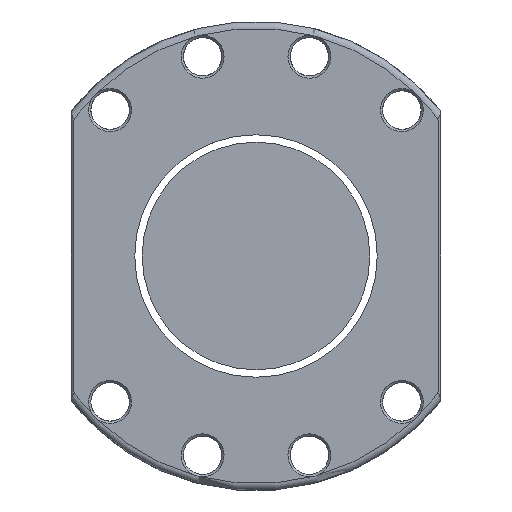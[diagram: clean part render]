
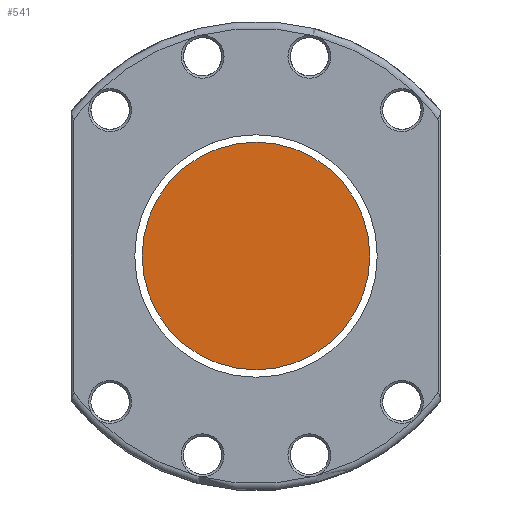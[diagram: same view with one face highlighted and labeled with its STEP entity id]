
A CAD part, left-side view. The second image highlights one B-rep face of the part: STEP entity #541.
In plain terms, the highlighted planar face has unit normal (-1, 0, 0).
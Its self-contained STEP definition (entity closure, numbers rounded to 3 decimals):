
#265 = EDGE_LOOP ( 'NONE', ( #950 ) ) ;
#376 = CIRCLE ( 'NONE', #1641, 40. ) ;
#455 = AXIS2_PLACEMENT_3D ( 'NONE', #1128, #3299, #3281 ) ;
#541 = ADVANCED_FACE ( 'NONE', ( #2986 ), #1393, .T. ) ;
#856 = DIRECTION ( 'NONE',  ( 1., 0., 0. ) ) ;
#950 = ORIENTED_EDGE ( 'NONE', *, *, #1398, .F. ) ;
#1128 = CARTESIAN_POINT ( 'NONE',  ( -320., 0., 0. ) ) ;
#1152 = DIRECTION ( 'NONE',  ( 0., 0., -1. ) ) ;
#1393 = PLANE ( 'NONE',  #455 ) ;
#1398 = EDGE_CURVE ( 'NONE', #3012, #3012, #376, .T. ) ;
#1641 = AXIS2_PLACEMENT_3D ( 'NONE', #1660, #856, #1152 ) ;
#1660 = CARTESIAN_POINT ( 'NONE',  ( -320., 0., 0. ) ) ;
#1940 = CARTESIAN_POINT ( 'NONE',  ( -320., 0., -40. ) ) ;
#2986 = FACE_OUTER_BOUND ( 'NONE', #265, .T. ) ;
#3012 = VERTEX_POINT ( 'NONE', #1940 ) ;
#3281 = DIRECTION ( 'NONE',  ( 0., 0., 1. ) ) ;
#3299 = DIRECTION ( 'NONE',  ( -1., 0., 0. ) ) ;
